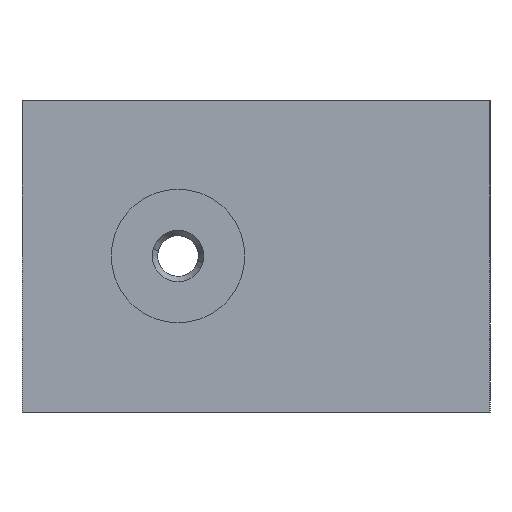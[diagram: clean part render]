
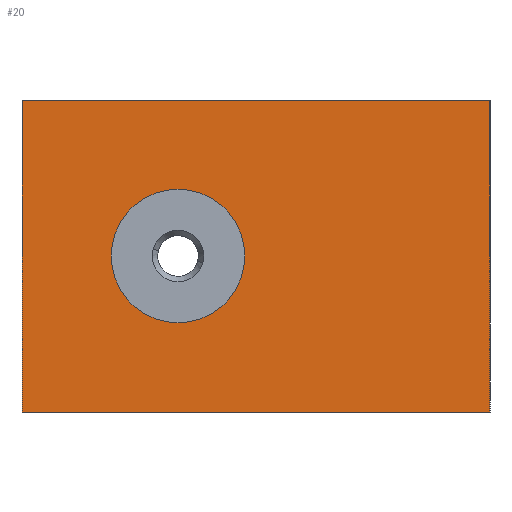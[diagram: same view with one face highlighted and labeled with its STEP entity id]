
A CAD part, left-side view. The second image highlights one B-rep face of the part: STEP entity #20.
In plain terms, the highlighted planar face has unit normal (-1, 0, 0).
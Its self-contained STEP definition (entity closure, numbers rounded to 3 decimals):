
#20 = ADVANCED_FACE ( 'NONE', ( #1439, #1440 ), #374, .F. ) ;
#112 = VERTEX_POINT ( 'NONE', #741 ) ;
#119 = VERTEX_POINT ( 'NONE', #791 ) ;
#166 = VERTEX_POINT ( 'NONE', #760 ) ;
#168 = VERTEX_POINT ( 'NONE', #765 ) ;
#186 = VERTEX_POINT ( 'NONE', #838 ) ;
#201 = VERTEX_POINT ( 'NONE', #815 ) ;
#327 = DIRECTION ( 'NONE',  ( 1., 0., 0. ) ) ;
#333 = CARTESIAN_POINT ( 'NONE',  ( 0., 0., 10. ) ) ;
#343 = DIRECTION ( 'NONE',  ( 0., 0., -1. ) ) ;
#374 = PLANE ( 'NONE',  #3493 ) ;
#741 = CARTESIAN_POINT ( 'NONE',  ( 0., 20., 4.28 ) ) ;
#760 = CARTESIAN_POINT ( 'NONE',  ( 0., 30., 10. ) ) ;
#765 = CARTESIAN_POINT ( 'NONE',  ( 0., 0., -10. ) ) ;
#791 = CARTESIAN_POINT ( 'NONE',  ( 0., 20., -4.28 ) ) ;
#815 = CARTESIAN_POINT ( 'NONE',  ( 0., 30., -10. ) ) ;
#838 = CARTESIAN_POINT ( 'NONE',  ( 0., 0., 10. ) ) ;
#1027 = DIRECTION ( 'NONE',  ( 0., -1., 0. ) ) ;
#1041 = CARTESIAN_POINT ( 'NONE',  ( 0., 0., 10. ) ) ;
#1291 = EDGE_LOOP ( 'NONE', ( #1588, #1611, #1566, #1581 ) ) ;
#1292 = EDGE_LOOP ( 'NONE', ( #1651, #1668 ) ) ;
#1439 = FACE_OUTER_BOUND ( 'NONE', #1291, .T. ) ;
#1440 = FACE_BOUND ( 'NONE', #1292, .T. ) ;
#1566 = ORIENTED_EDGE ( 'NONE', *, *, #3294, .F. ) ;
#1581 = ORIENTED_EDGE ( 'NONE', *, *, #3354, .T. ) ;
#1588 = ORIENTED_EDGE ( 'NONE', *, *, #3358, .T. ) ;
#1611 = ORIENTED_EDGE ( 'NONE', *, *, #3356, .F. ) ;
#1651 = ORIENTED_EDGE ( 'NONE', *, *, #3346, .F. ) ;
#1668 = ORIENTED_EDGE ( 'NONE', *, *, #3317, .F. ) ;
#1872 = CARTESIAN_POINT ( 'NONE',  ( 0., 20., 0. ) ) ;
#1874 = DIRECTION ( 'NONE',  ( 0., 0., 1. ) ) ;
#1885 = DIRECTION ( 'NONE',  ( -1., 0., 0. ) ) ;
#1917 = DIRECTION ( 'NONE',  ( -1., 0., 0. ) ) ;
#1920 = DIRECTION ( 'NONE',  ( 0., 0., 1. ) ) ;
#1950 = CARTESIAN_POINT ( 'NONE',  ( 0., 20., 0. ) ) ;
#1961 = DIRECTION ( 'NONE',  ( 0., 0., -1. ) ) ;
#1975 = CARTESIAN_POINT ( 'NONE',  ( 0., 0., -10. ) ) ;
#1977 = CARTESIAN_POINT ( 'NONE',  ( 0., 0., 10. ) ) ;
#1982 = DIRECTION ( 'NONE',  ( 0., -1., 0. ) ) ;
#1994 = CARTESIAN_POINT ( 'NONE',  ( 0., 30., 10. ) ) ;
#2001 = DIRECTION ( 'NONE',  ( 0., 0., -1. ) ) ;
#2452 = VECTOR ( 'NONE', #1027, 1000. ) ;
#2465 = LINE ( 'NONE', #1041, #2452 ) ;
#2517 = CIRCLE ( 'NONE', #3136, 4.28 ) ;
#2526 = LINE ( 'NONE', #1975, #2537 ) ;
#2533 = VECTOR ( 'NONE', #1961, 1000. ) ;
#2534 = CIRCLE ( 'NONE', #3161, 4.28 ) ;
#2537 = VECTOR ( 'NONE', #1982, 1000. ) ;
#2540 = VECTOR ( 'NONE', #2001, 1000. ) ;
#2542 = LINE ( 'NONE', #1977, #2540 ) ;
#2553 = LINE ( 'NONE', #1994, #2533 ) ;
#3136 = AXIS2_PLACEMENT_3D ( 'NONE', #1872, #1885, #1874 ) ;
#3161 = AXIS2_PLACEMENT_3D ( 'NONE', #1950, #1917, #1920 ) ;
#3294 = EDGE_CURVE ( 'NONE', #166, #186, #2465, .T. ) ;
#3317 = EDGE_CURVE ( 'NONE', #119, #112, #2517, .T. ) ;
#3346 = EDGE_CURVE ( 'NONE', #112, #119, #2534, .T. ) ;
#3354 = EDGE_CURVE ( 'NONE', #166, #201, #2553, .T. ) ;
#3356 = EDGE_CURVE ( 'NONE', #186, #168, #2542, .T. ) ;
#3358 = EDGE_CURVE ( 'NONE', #201, #168, #2526, .T. ) ;
#3493 = AXIS2_PLACEMENT_3D ( 'NONE', #333, #327, #343 ) ;
